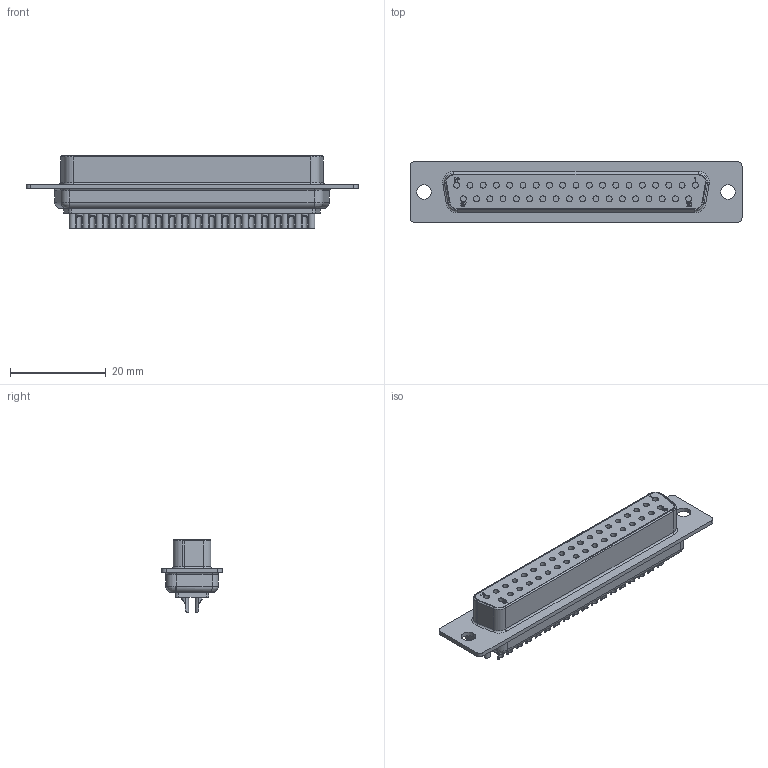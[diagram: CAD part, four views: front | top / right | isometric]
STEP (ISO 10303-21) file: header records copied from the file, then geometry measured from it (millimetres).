
FILE_DESCRIPTION(('FreeCAD Model'),'2;1');
FILE_NAME('C:/Users/Metaltex-99/Desktop/DBSF-37.stp', '2020-12-23T08:26:58',('Engenharia Metaltex'),('Metaltex'), 'Open CASCADE STEP processor 7.3','FreeCAD','Unknown');
FILE_SCHEMA(('AUTOMOTIVE_DESIGN { 1 0 10303 214 1 1 1 1 }'));
Products named in the file (1): DBSF-37
Bounding box: 69.3 x 12.6 x 15.27 mm (x, y, z)
Volume: 5871.6 mm3; surface area: 6332 mm2
Topology: 1 solids, 1 shells, 900 faces, 2164 edges, 1382 vertices
Faces by surface type: cylinder 452, plane 354, bspline 74, torus 15, revolution 5
Entity records: 76588 total; most frequent: CARTESIAN_POINT 35355, DIRECTION 6958, ORIENTED_EDGE 4328, PCURVE 4328, DEFINITIONAL_REPRESENTATION 4328, LINE 3874, VECTOR 3874, EDGE_CURVE 2164
